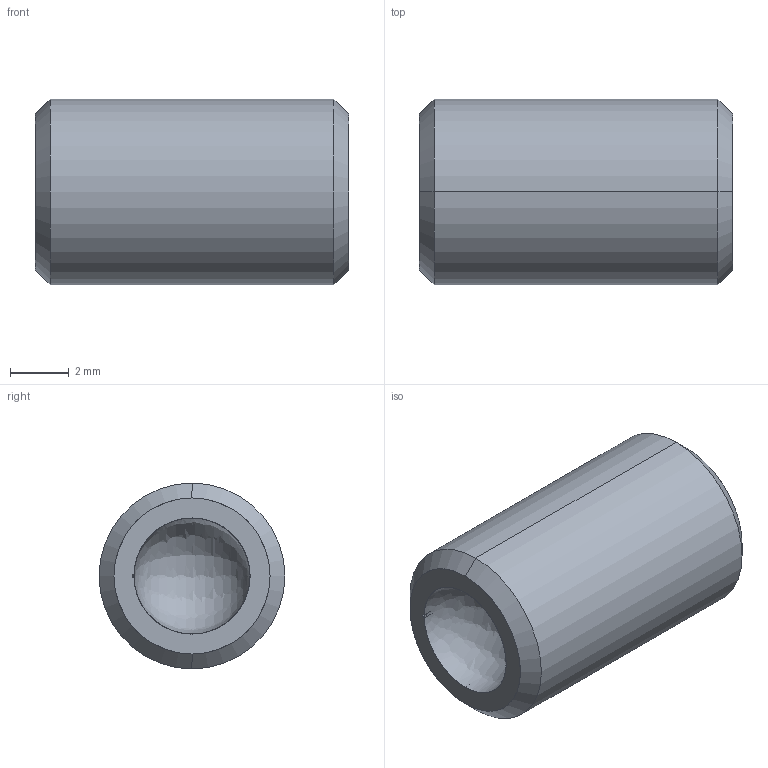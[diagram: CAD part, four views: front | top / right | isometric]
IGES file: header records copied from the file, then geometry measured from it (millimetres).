
Start section: SolidWorks IGES file using analytic representation for surfaces
Global section: file name: C:\Users\workpc\Desktop\KMA Solidworks\TS250-80 Series\TS250-80 High Vacuum\TS250-80 High Vacuum 3D Models\TS250-80-500-HV.IGS; native system: SolidWorks 2013; preprocessor: SolidWorks 2013; author: workpc; date: 130509.085516; units: inch
Bounding box: 10.72 x 6.35 x 6.35 mm (x, y, z)
Surface area: 357.8 mm2 (no closed solid volume)
Topology: 0 solids, 0 shells, 29 faces, 267 edges, 264 vertices
Faces by surface type: revolution 18, bspline 11
